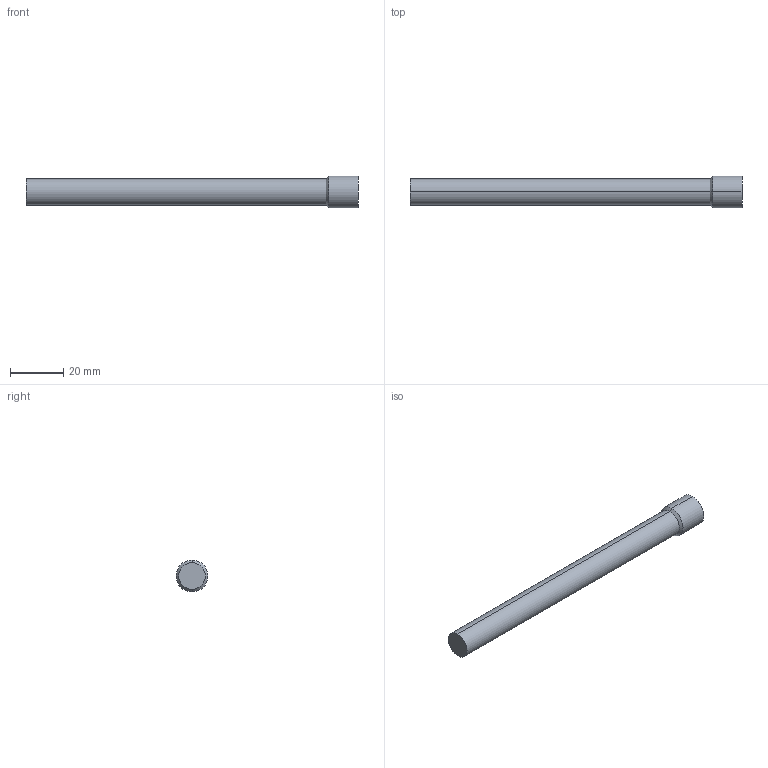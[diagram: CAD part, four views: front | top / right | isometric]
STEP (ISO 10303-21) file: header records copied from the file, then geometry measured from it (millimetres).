
FILE_DESCRIPTION (( 'STEP AP214' ), '1' );
FILE_NAME ('BR89-1-8x125.STEP', '2020-06-23T10:34:53', ( '' ), ( '' ), 'SwSTEP 2.0', 'SolidWorks 2018', '' );
FILE_SCHEMA (( 'AUTOMOTIVE_DESIGN' ));
Length unit declared in the file: millimetre
Products named in the file (1): BR89-1-8x125
Bounding box: 125 x 12 x 12 mm (x, y, z)
Volume: 9997.9 mm3; surface area: 4378.4 mm2
Topology: 1 solids, 1 shells, 15 faces, 32 edges, 20 vertices
Faces by surface type: plane 9, cylinder 4, cone 2
Entity records: 436 total; most frequent: DIRECTION 72, CARTESIAN_POINT 68, ORIENTED_EDGE 64, EDGE_CURVE 32, LINE 24, VECTOR 24, AXIS2_PLACEMENT_3D 24, VERTEX_POINT 20
